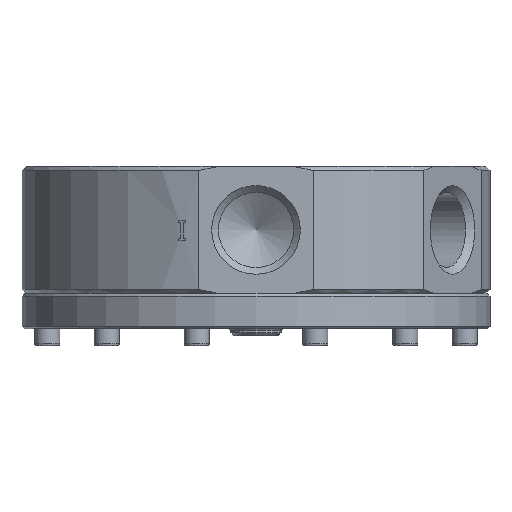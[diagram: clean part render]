
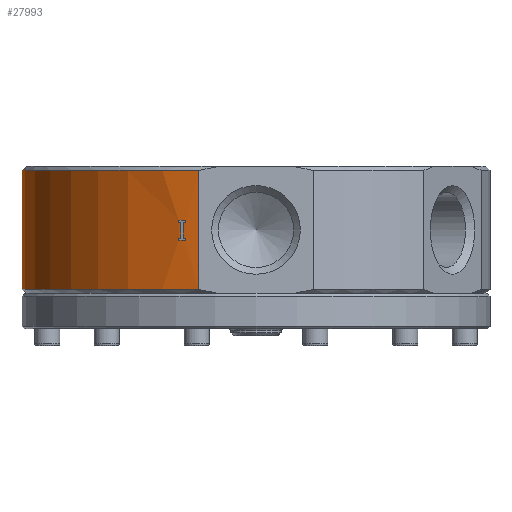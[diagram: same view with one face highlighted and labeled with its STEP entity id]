
A CAD part, left-side view. The second image highlights one B-rep face of the part: STEP entity #27993.
In plain terms, the highlighted cylindrical face has radius 88.9 mm (diameter 177.8 mm), a partial arc.
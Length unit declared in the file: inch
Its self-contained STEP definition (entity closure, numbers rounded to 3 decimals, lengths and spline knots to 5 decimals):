
#354=FACE_BOUND('',#4094,.T.);
#2612=FACE_OUTER_BOUND('',#4093,.T.);
#4093=EDGE_LOOP('',(#21760,#21761,#21762,#21763));
#4094=EDGE_LOOP('',(#21764,#21765,#21766,#21767,#21768,#21769,#21770,#21771,
#21772,#21773,#21774,#21775));
#5392=LINE('',#38002,#8599);
#5400=LINE('',#38066,#8607);
#5423=LINE('',#38572,#8630);
#5426=LINE('',#38580,#8633);
#5429=LINE('',#38588,#8636);
#5432=LINE('',#38596,#8639);
#5435=LINE('',#38604,#8642);
#5438=LINE('',#38612,#8645);
#8599=VECTOR('',#30893,0.3937);
#8607=VECTOR('',#30919,0.3937);
#8630=VECTOR('',#30966,0.3937);
#8633=VECTOR('',#30975,0.3937);
#8636=VECTOR('',#30984,0.3937);
#8639=VECTOR('',#30993,0.3937);
#8642=VECTOR('',#31002,0.3937);
#8645=VECTOR('',#31011,0.3937);
#11405=CIRCLE('',#28865,3.5);
#11406=CIRCLE('',#28868,3.5);
#11407=CIRCLE('',#28871,3.5);
#11408=CIRCLE('',#28874,3.5);
#11409=CIRCLE('',#28877,3.5);
#11410=CIRCLE('',#28880,3.5);
#11427=CIRCLE('',#29429,3.5);
#11428=CIRCLE('',#29431,3.5);
#12164=VERTEX_POINT('',#37997);
#12165=VERTEX_POINT('',#38001);
#12178=VERTEX_POINT('',#38061);
#12179=VERTEX_POINT('',#38065);
#12221=VERTEX_POINT('',#38569);
#12222=VERTEX_POINT('',#38571);
#12223=VERTEX_POINT('',#38575);
#12224=VERTEX_POINT('',#38579);
#12225=VERTEX_POINT('',#38583);
#12226=VERTEX_POINT('',#38587);
#12227=VERTEX_POINT('',#38591);
#12228=VERTEX_POINT('',#38595);
#12229=VERTEX_POINT('',#38599);
#12230=VERTEX_POINT('',#38603);
#12231=VERTEX_POINT('',#38607);
#12232=VERTEX_POINT('',#38611);
#14766=EDGE_CURVE('',#12165,#12164,#5392,.T.);
#14788=EDGE_CURVE('',#12179,#12178,#5400,.T.);
#14849=EDGE_CURVE('',#12222,#12221,#5423,.T.);
#14851=EDGE_CURVE('',#12223,#12222,#11405,.T.);
#14853=EDGE_CURVE('',#12224,#12223,#5426,.T.);
#14855=EDGE_CURVE('',#12225,#12224,#11406,.T.);
#14857=EDGE_CURVE('',#12226,#12225,#5429,.T.);
#14859=EDGE_CURVE('',#12227,#12226,#11407,.T.);
#14861=EDGE_CURVE('',#12228,#12227,#5432,.T.);
#14863=EDGE_CURVE('',#12229,#12228,#11408,.T.);
#14865=EDGE_CURVE('',#12230,#12229,#5435,.T.);
#14867=EDGE_CURVE('',#12231,#12230,#11409,.T.);
#14869=EDGE_CURVE('',#12232,#12231,#5438,.T.);
#14871=EDGE_CURVE('',#12221,#12232,#11410,.T.);
#16069=EDGE_CURVE('',#12165,#12178,#11427,.T.);
#16070=EDGE_CURVE('',#12179,#12164,#11428,.T.);
#21760=ORIENTED_EDGE('',*,*,#16069,.F.);
#21761=ORIENTED_EDGE('',*,*,#14766,.T.);
#21762=ORIENTED_EDGE('',*,*,#16070,.F.);
#21763=ORIENTED_EDGE('',*,*,#14788,.T.);
#21764=ORIENTED_EDGE('',*,*,#14849,.T.);
#21765=ORIENTED_EDGE('',*,*,#14871,.T.);
#21766=ORIENTED_EDGE('',*,*,#14869,.T.);
#21767=ORIENTED_EDGE('',*,*,#14867,.T.);
#21768=ORIENTED_EDGE('',*,*,#14865,.T.);
#21769=ORIENTED_EDGE('',*,*,#14863,.T.);
#21770=ORIENTED_EDGE('',*,*,#14861,.T.);
#21771=ORIENTED_EDGE('',*,*,#14859,.T.);
#21772=ORIENTED_EDGE('',*,*,#14857,.T.);
#21773=ORIENTED_EDGE('',*,*,#14855,.T.);
#21774=ORIENTED_EDGE('',*,*,#14853,.T.);
#21775=ORIENTED_EDGE('',*,*,#14851,.T.);
#25841=CYLINDRICAL_SURFACE('',#29430,3.5);
#27993=ADVANCED_FACE('',(#2612,#354),#25841,.T.);
#28865=AXIS2_PLACEMENT_3D('',#38576,#30970,#30971);
#28868=AXIS2_PLACEMENT_3D('',#38584,#30979,#30980);
#28871=AXIS2_PLACEMENT_3D('',#38592,#30988,#30989);
#28874=AXIS2_PLACEMENT_3D('',#38600,#30997,#30998);
#28877=AXIS2_PLACEMENT_3D('',#38608,#31006,#31007);
#28880=AXIS2_PLACEMENT_3D('',#38615,#31015,#31016);
#29429=AXIS2_PLACEMENT_3D('',#42190,#33195,#33196);
#29430=AXIS2_PLACEMENT_3D('',#42191,#33197,#33198);
#29431=AXIS2_PLACEMENT_3D('',#42192,#33199,#33200);
#30893=DIRECTION('',(0.,0.,-1.));
#30919=DIRECTION('',(0.,0.,1.));
#30966=DIRECTION('',(0.,0.,1.));
#30970=DIRECTION('center_axis',(0.,0.,
-1.));
#30971=DIRECTION('ref_axis',(-1.,0.,0.));
#30975=DIRECTION('',(0.,0.,-1.));
#30979=DIRECTION('center_axis',(0.,0.,
1.));
#30980=DIRECTION('ref_axis',(-1.,0.,0.));
#30984=DIRECTION('',(0.,0.,-1.));
#30988=DIRECTION('center_axis',(0.,0.,
-1.));
#30989=DIRECTION('ref_axis',(-1.,0.,0.));
#30993=DIRECTION('',(0.,0.,-1.));
#30997=DIRECTION('center_axis',(0.,0.,
1.));
#30998=DIRECTION('ref_axis',(-1.,0.,0.));
#31002=DIRECTION('',(0.,0.,1.));
#31006=DIRECTION('center_axis',(0.,0.,
-1.));
#31007=DIRECTION('ref_axis',(-1.,0.,0.));
#31011=DIRECTION('',(0.,0.,1.));
#31015=DIRECTION('center_axis',(0.,0.,
1.));
#31016=DIRECTION('ref_axis',(-1.,0.,0.));
#33195=DIRECTION('center_axis',(0.,0.,
1.));
#33196=DIRECTION('ref_axis',(-1.,0.,0.));
#33197=DIRECTION('center_axis',(0.,0.,
1.));
#33198=DIRECTION('ref_axis',(-1.,0.,0.));
#33199=DIRECTION('center_axis',(0.,0.,
-1.));
#33200=DIRECTION('ref_axis',(-1.,0.,0.));
#37997=CARTESIAN_POINT('',(3.3937,0.85603,11.26703));
#38001=CARTESIAN_POINT('',(3.3937,0.85603,13.04703));
#38002=CARTESIAN_POINT('',(3.3937,0.85603,12.15703));
#38061=CARTESIAN_POINT('',(-3.3937,0.85603,13.04703));
#38065=CARTESIAN_POINT('',(-3.3937,0.85603,11.26703));
#38066=CARTESIAN_POINT('',(-3.3937,0.85603,12.15703));
#38569=CARTESIAN_POINT('',(-3.30276,1.15834,12.03149));
#38571=CARTESIAN_POINT('',(-3.30276,1.15834,12.00086));
#38572=CARTESIAN_POINT('',(-3.30276,1.15834,12.15703));
#38575=CARTESIAN_POINT('',(-3.3394,1.04806,12.00086));
#38576=CARTESIAN_POINT('Origin',(0.,0.,
12.00086));
#38579=CARTESIAN_POINT('',(-3.3394,1.04806,12.03149));
#38580=CARTESIAN_POINT('',(-3.3394,1.04806,12.15703));
#38583=CARTESIAN_POINT('',(-3.32777,1.08442,12.03149));
#38584=CARTESIAN_POINT('Origin',(0.,0.,
12.03149));
#38587=CARTESIAN_POINT('',(-3.32777,1.08442,12.27023));
#38588=CARTESIAN_POINT('',(-3.32777,1.08442,12.15703));
#38591=CARTESIAN_POINT('',(-3.3394,1.04806,12.27023));
#38592=CARTESIAN_POINT('Origin',(0.,0.,
12.27023));
#38595=CARTESIAN_POINT('',(-3.3394,1.04806,12.30086));
#38596=CARTESIAN_POINT('',(-3.3394,1.04806,12.15703));
#38599=CARTESIAN_POINT('',(-3.30276,1.15834,12.30086));
#38600=CARTESIAN_POINT('Origin',(0.,0.,
12.30086));
#38603=CARTESIAN_POINT('',(-3.30276,1.15834,12.27023));
#38604=CARTESIAN_POINT('',(-3.30276,1.15834,12.15703));
#38607=CARTESIAN_POINT('',(-3.3152,1.12226,12.27023));
#38608=CARTESIAN_POINT('Origin',(0.,0.,
12.27023));
#38611=CARTESIAN_POINT('',(-3.3152,1.12226,12.03149));
#38612=CARTESIAN_POINT('',(-3.3152,1.12226,12.15703));
#38615=CARTESIAN_POINT('Origin',(0.,0.,
12.03149));
#42190=CARTESIAN_POINT('Origin',(0.,0.,
13.04703));
#42191=CARTESIAN_POINT('Origin',(0.,0.,
12.15703));
#42192=CARTESIAN_POINT('Origin',(0.,0.,
11.26703));
